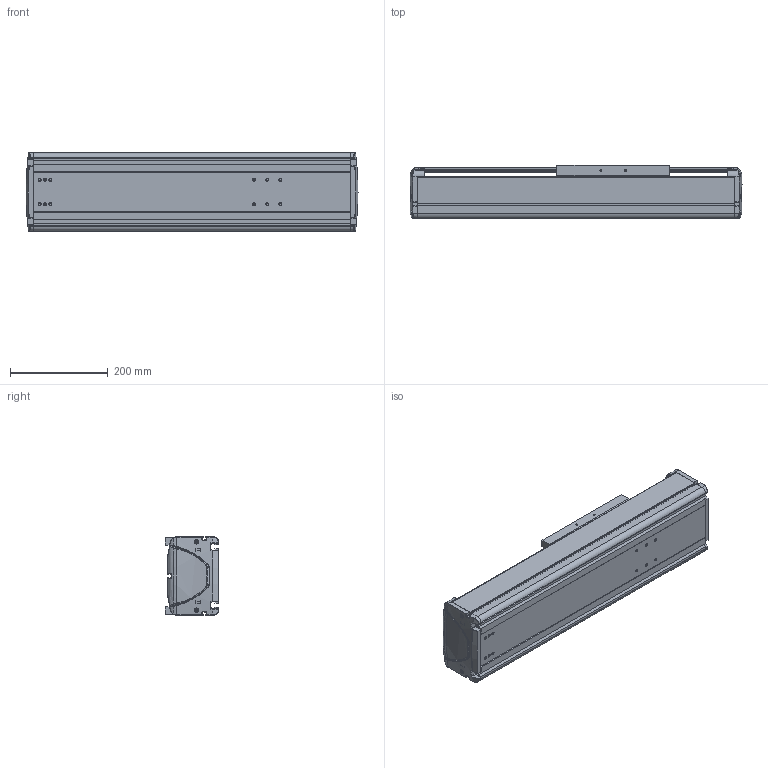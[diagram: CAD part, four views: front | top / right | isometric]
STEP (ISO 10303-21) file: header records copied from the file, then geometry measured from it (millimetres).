
FILE_DESCRIPTION((''),'2;1');
FILE_NAME('BE50G-ST-L_N-25_IGS_PRT','2017-06-18T',(' '),(''),'PRO/ENGINEER BY PARAMETRIC TECHNOLOGY CORPORATION, 2015030','PRO/ENGINEER BY PARAMETRIC TECHNOLOGY CORPORATION, 2015030','');
FILE_SCHEMA(('CONFIG_CONTROL_DESIGN'));
Length unit declared in the file: millimetre
Products named in the file (1): BE50G-ST-L_N-25_IGS_PRT
Bounding box: 679.98 x 110 x 160 mm (x, y, z)
Volume: 3100509.6 mm3; surface area: 1146064.9 mm2
Topology: 7 solids, 76 shells, 1506 faces, 3940 edges, 2525 vertices
Faces by surface type: cylinder 638, plane 575, bspline 110, torus 87, cone 56, sphere 40
Entity records: 51829 total; most frequent: CARTESIAN_POINT 15080, DIRECTION 7558, ORIENTED_EDGE 7548, EDGE_CURVE 3914, AXIS2_PLACEMENT_3D 2808, VERTEX_POINT 2525, VECTOR 1942, LINE 1942
